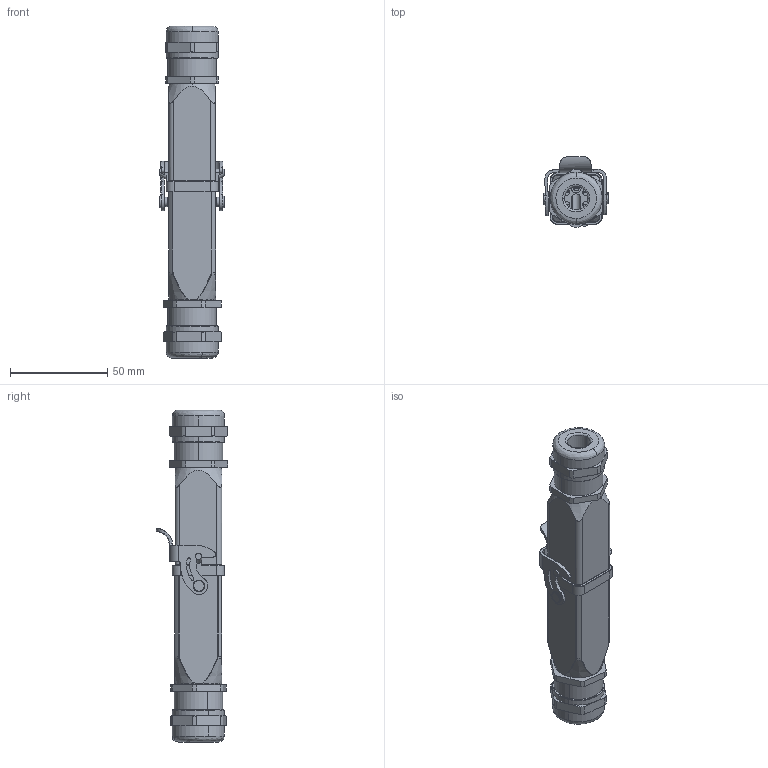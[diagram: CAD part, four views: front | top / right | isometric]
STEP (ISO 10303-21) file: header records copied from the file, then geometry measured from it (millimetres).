
FILE_DESCRIPTION (( 'STEP AP214' ), '1' );
FILE_NAME ('09004009220P H3A HA、4针、对接底座、顶出20套件、.STEP', '2024-04-16T02:00:07', ( 'L' ), ( '' ), 'SwSTEP 2.0', 'SolidWorks 2019', '' );
FILE_SCHEMA (( 'AUTOMOTIVE_DESIGN' ));
Length unit declared in the file: millimetre
Products named in the file (8): H3A-MTG-M20.step; H3A-MTGVB-M20.STEP; HA-004-F.stp; HA-004-M.stp; FAS-20-P.step; 09004009220P H3A HA、4针、对接底座、顶出20套件、; h3a-mags.STEP; h3a_.STEP
Assembly tree (8 placements, depth 3):
  09004009220P H3A HA、4针、对接底座、顶出20套件、
    H3A-MTG-M20.step
    HA-004-F.stp
    HA-004-M.stp
    H3A-MTGVB-M20.STEP
      h3a-mags.STEP
      h3a_.STEP
    FAS-20-P.step  x2
Bounding box: 33.75 x 36.57 x 170.62 mm (x, y, z)
Volume: 61496 mm3; surface area: 45107.8 mm2
Topology: 7 solids, 7 shells, 1406 faces, 3871 edges, 2536 vertices
Faces by surface type: plane 661, cylinder 376, bspline 254, cone 83, sphere 20, torus 12
Entity records: 56603 total; most frequent: CARTESIAN_POINT 21311, ORIENTED_EDGE 7408, DIRECTION 5709, EDGE_CURVE 3704, VERTEX_POINT 2448, LINE 2159, VECTOR 2159, AXIS2_PLACEMENT_3D 1775
